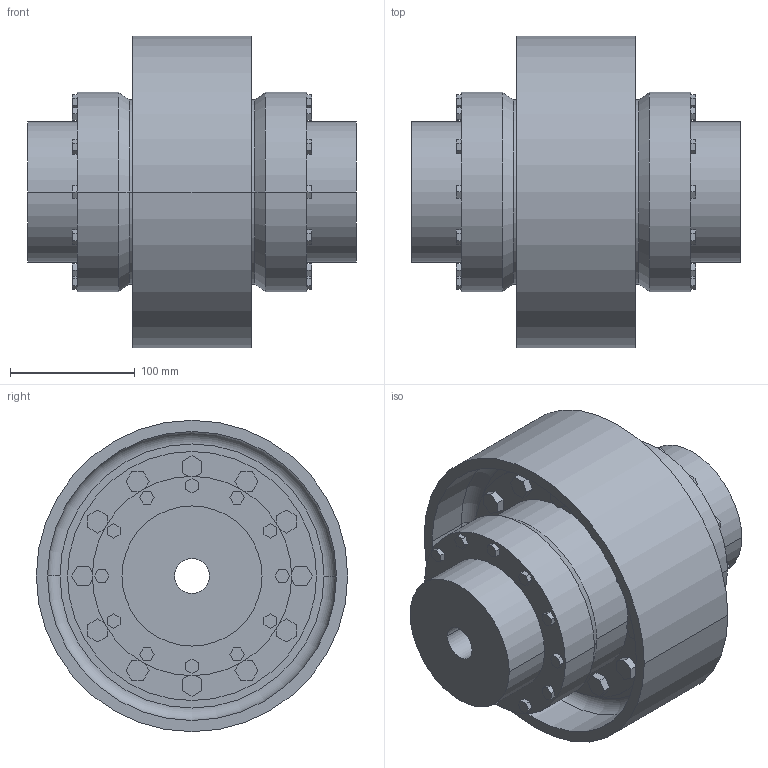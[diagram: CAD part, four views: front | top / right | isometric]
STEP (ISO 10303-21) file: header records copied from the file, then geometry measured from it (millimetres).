
FILE_DESCRIPTION((''),'2;1');
FILE_NAME('A19735700-0_ASM','2019-05-23T',('AB_Roschiwal'),('RENK AG'),'PRO/ENGINEER BY PARAMETRIC TECHNOLOGY CORPORATION, 2015440','PRO/ENGINEER BY PARAMETRIC TECHNOLOGY CORPORATION, 2015440','');
FILE_SCHEMA(('CONFIG_CONTROL_DESIGN'));
Length unit declared in the file: millimetre
Products named in the file (4): SBKD70_GEHAEUSE; SBKD70_NABE; SBKD70_BREMSSCHEIBE; A19735700-0_ASM
Assembly tree (4 placements, depth 2):
  A19735700-0_ASM
    SBKD70_GEHAEUSE
    SBKD70_NABE  x2
    SBKD70_BREMSSCHEIBE
Bounding box: 264 x 250 x 250 mm (x, y, z)
Volume: 3968096.4 mm3; surface area: 607285.3 mm2
Topology: 4 solids, 4 shells, 474 faces, 1164 edges, 772 vertices
Faces by surface type: plane 370, cylinder 96, cone 4, torus 4
Entity records: 13708 total; most frequent: CARTESIAN_POINT 2366, ORIENTED_EDGE 2280, DIRECTION 2264, EDGE_CURVE 1140, VECTOR 956, LINE 956, VERTEX_POINT 756, AXIS2_PLACEMENT_3D 654
